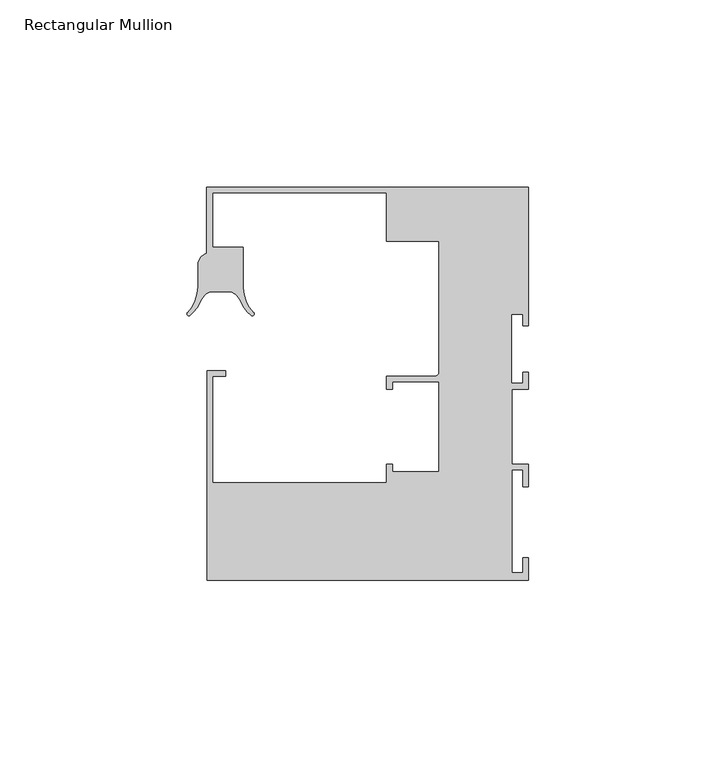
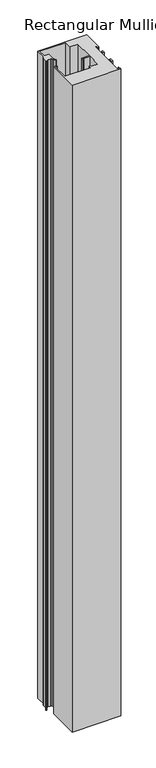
"""IFC4 building model written with IfcOpenShell, lengths in millimetres: member geometry, Rectangular Mullion : Danpal_Airpt_End-Mullion_B1."""

from ifc_helpers import new_model, si_unit, point, frame, frame_2d, origin, place, context, project, spatial, polyline, circle_curve, trimmed, segment, composite_curve, outline, extrude, source, transform, mapped, element, save


def rectangular_mullion_d2c126c3(model_context):
    return source(origin(), model_context, "Body", "SweptSolid", [
        extrude(outline(composite_curve([segment(polyline([(-84.5, -44.249979), (-38.0, -44.249979), (-38.0, -39.2500001), (-36.4, -39.2500001), (-36.4, -41.2500001), (-23.9180899, -41.2500001), (-23.9180899, -17.2500031), (-36.4180899, -17.2500031), (-36.4180899, -19.2500031), (-38.0180899, -19.2500031), (-38.0180899, -15.7500031), (-24.969716, -15.7500031)]), True, "CONTINUOUS"), segment(trimmed(circle_curve(frame_2d((-24.969716, -14.698377)), 1.0516261), [point((-24.969716, -15.7500031))], [point((-23.9180899, -14.698377))], True, "CARTESIAN"), True, "CONTINUOUS"), segment(polyline([(-23.9180899, -14.698377), (-23.9180899, 20.2499969), (-38.0180899, 20.2499969), (-38.0180899, 33.2499969), (-84.5180945, 33.2499969), (-84.5180945, 18.6499969), (-76.3180945, 18.6499969), (-76.3180945, 7.8643287)]), True, "CONTINUOUS"), segment(trimmed(circle_curve(frame_2d((-66.322244, 8.1523787)), 10.0), [point((-76.3180945, 7.8643287))], [point((-73.5120728, 1.2021009))], True, "CARTESIAN"), True, "CONTINUOUS"), segment(trimmed(circle_curve(frame_2d((-73.8718016, 0.8543575)), 0.5003301), [point((-73.5120728, 1.2021009))], [point((-74.1944462, 0.4719563))], False, "CARTESIAN"), True, "CONTINUOUS"), segment(trimmed(circle_curve(frame_2d((-67.7458114, 8.1149337)), 9.9999997), [point((-74.1944462, 0.4719563))], [point((-76.759944, 3.7853369))], False, "CARTESIAN"), True, "CONTINUOUS"), segment(trimmed(circle_curve(frame_2d((-85.7740768, -0.5442599)), 10.0), [point((-76.759944, 3.7853369))], [point((-77.9898528, 5.7331484))], True, "CARTESIAN"), True, "CONTINUOUS"), segment(trimmed(circle_curve(frame_2d((-80.32512, 3.8499259)), 3.0), [point((-77.9898528, 5.7331484))], [point((-80.32512, 6.8499259))], True, "CARTESIAN"), True, "CONTINUOUS"), segment(polyline([(-80.32512, 6.8499259), (-84.363764, 6.8499259)]), True, "CONTINUOUS"), segment(trimmed(circle_curve(frame_2d((-84.363764, 3.8499259)), 3.0), [point((-84.363764, 6.8499259))], [point((-86.6990305, 5.7331494))], True, "CARTESIAN"), True, "CONTINUOUS"), segment(trimmed(circle_curve(frame_2d((-78.9148092, -0.544262)), 9.9999997), [point((-86.6990305, 5.7331494))], [point((-87.9289412, 3.785336))], True, "CARTESIAN"), True, "CONTINUOUS"), segment(trimmed(circle_curve(frame_2d((-96.9430732, 8.114934)), 9.9999998), [point((-87.9289412, 3.785336))], [point((-90.4970116, 0.4697862))], False, "CARTESIAN"), True, "CONTINUOUS"), segment(trimmed(circle_curve(frame_2d((-90.8194227, 0.8521716)), 0.5001675), [point((-90.4970116, 0.4697862))], [point((-91.1789286, 1.1999114))], False, "CARTESIAN"), True, "CONTINUOUS"), segment(trimmed(circle_curve(frame_2d((-98.3666403, 8.1523787)), 10.0), [point((-91.1789286, 1.1999114))], [point((-88.3666989, 8.1181379))], True, "CARTESIAN"), True, "CONTINUOUS"), segment(polyline([(-88.3666989, 8.1181379), (-88.3666989, 14.1183419)]), True, "CONTINUOUS"), segment(trimmed(circle_curve(frame_2d((-85.366716, 14.1081309)), 3.0000002), [point((-88.3666989, 14.1183419))], [point((-86.0180914, 17.0365625))], False, "CARTESIAN"), True, "CONTINUOUS"), segment(polyline([(-86.0180914, 17.0365625), (-86.0180914, 34.75), (-0.0180922, 34.75), (-0.0180922, -2.25), (-1.5180922, -2.25), (-1.5180922, 0.75), (-4.5180922, 0.75), (-4.5180922, -17.65), (-1.5180922, -17.65), (-1.5180922, -14.65), (-0.0180922, -14.65), (-0.0180922, -19.25), (-4.5, -19.25), (-4.5, -39.2500001), (-0.0180937, -39.2500001), (-0.0180937, -45.2500001), (-1.5180937, -45.2500001), (-1.5180937, -40.7500001), (-4.5, -40.7500001), (-4.5, -68.2500001), (-1.5, -68.2500001), (-1.5, -64.2500001), (0.0, -64.2500001), (0.0, -70.2500001), (-86.0, -70.2500001), (-86.0, -14.2500001), (-81.0, -14.2500001), (-81.0, -15.7500001), (-84.5, -15.7500001), (-84.5, -44.249979)]), True, "CONTINUOUS")], self_intersect=False)), frame((0.0, 0.0, -1208.6804098), z_axis=(0.0, 0.0, 1.0), x_axis=(1.0, 0.0, 0.0)), (0.0, 0.0, 1.0), 1208.6804098),
    ])


if __name__ == "__main__":
    model = new_model("IFC4")
    model_context = context("Model", 3, world=origin())
    ifc_project = project(units=[si_unit("LENGTHUNIT", "METRE", prefix="MILLI")], contexts=[model_context])
    site = spatial("IfcSite", under=ifc_project)
    building = spatial("IfcBuilding", under=site)
    placement = place(None, origin())
    rectangular_mullion_shape = rectangular_mullion_d2c126c3(model_context)
    element("IfcMember", 1, ObjectType="Rectangular Mullion : Danpal_Airpt_End-Mullion_B1", at=placement, inside=building, context=model_context, shape_type="MappedRepresentation", body=[
        mapped(rectangular_mullion_shape, transform((0.0, 0.0, 0.0), x_axis=(1.0, 0.0, 0.0), y_axis=(0.0, 1.0, 0.0), z_axis=(0.0, 0.0, 1.0))),
    ])
    save(model, "model.ifc")
